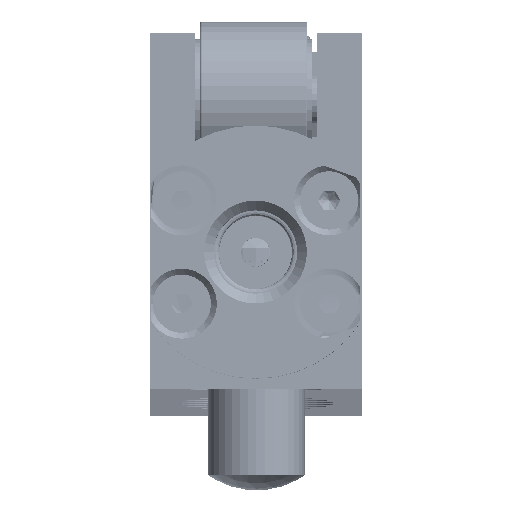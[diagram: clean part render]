
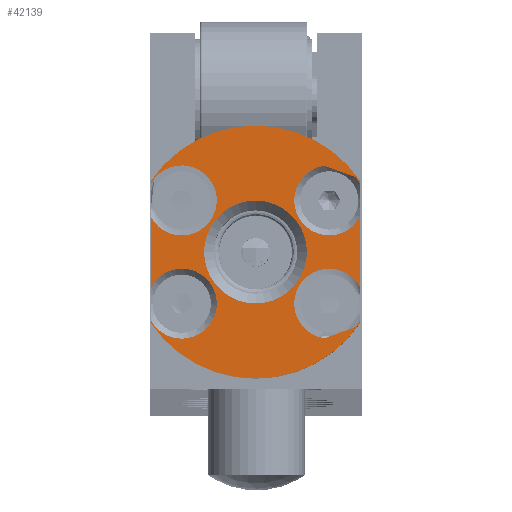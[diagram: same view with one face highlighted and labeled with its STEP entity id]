
A CAD part, top view. The second image highlights one B-rep face of the part: STEP entity #42139.
In plain terms, the highlighted planar face has unit normal (0, 0, 1).
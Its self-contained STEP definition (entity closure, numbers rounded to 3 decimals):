
#1530=FACE_BOUND('',#6582,.T.);
#1901=PLANE('',#46135);
#4018=FACE_OUTER_BOUND('',#6581,.T.);
#6581=EDGE_LOOP('',(#31925,#31926,#31927,#31928,#31929,#31930,#31931,#31932,
#31933,#31934,#31935,#31936,#31937,#31938,#31939,#31940));
#6582=EDGE_LOOP('',(#31941));
#8816=LINE('',#75810,#10376);
#8817=LINE('',#75813,#10377);
#8818=LINE('',#75817,#10378);
#8819=LINE('',#75821,#10379);
#8820=LINE('',#75825,#10380);
#8821=LINE('',#75829,#10381);
#8822=LINE('',#75833,#10382);
#8823=LINE('',#75836,#10383);
#10376=VECTOR('',#56048,10.);
#10377=VECTOR('',#56051,10.);
#10378=VECTOR('',#56054,10.);
#10379=VECTOR('',#56057,10.);
#10380=VECTOR('',#56060,10.);
#10381=VECTOR('',#56063,10.);
#10382=VECTOR('',#56066,10.);
#10383=VECTOR('',#56069,10.);
#12531=CIRCLE('',#46128,3.6);
#12534=CIRCLE('',#46131,3.6);
#12536=CIRCLE('',#46136,3.6);
#12537=CIRCLE('',#46137,3.6);
#12538=CIRCLE('',#46138,13.);
#12539=CIRCLE('',#46139,3.6);
#12540=CIRCLE('',#46140,3.6);
#12541=CIRCLE('',#46141,13.);
#12542=CIRCLE('',#46142,5.283);
#17184=VERTEX_POINT('',#75784);
#17185=VERTEX_POINT('',#75785);
#17186=VERTEX_POINT('',#75789);
#17190=VERTEX_POINT('',#75800);
#17192=VERTEX_POINT('',#75812);
#17193=VERTEX_POINT('',#75814);
#17194=VERTEX_POINT('',#75816);
#17195=VERTEX_POINT('',#75818);
#17196=VERTEX_POINT('',#75820);
#17197=VERTEX_POINT('',#75822);
#17198=VERTEX_POINT('',#75824);
#17199=VERTEX_POINT('',#75826);
#17200=VERTEX_POINT('',#75828);
#17201=VERTEX_POINT('',#75830);
#17202=VERTEX_POINT('',#75832);
#17203=VERTEX_POINT('',#75834);
#17204=VERTEX_POINT('',#75837);
#22589=EDGE_CURVE('',#17186,#17184,#12531,.T.);
#22595=EDGE_CURVE('',#17185,#17190,#12534,.T.);
#22598=EDGE_CURVE('',#17190,#17186,#8816,.T.);
#22599=EDGE_CURVE('',#17184,#17192,#8817,.T.);
#22600=EDGE_CURVE('',#17192,#17193,#12536,.T.);
#22601=EDGE_CURVE('',#17193,#17194,#8818,.T.);
#22602=EDGE_CURVE('',#17194,#17195,#12537,.T.);
#22603=EDGE_CURVE('',#17195,#17196,#8819,.T.);
#22604=EDGE_CURVE('',#17197,#17196,#12538,.T.);
#22605=EDGE_CURVE('',#17197,#17198,#8820,.T.);
#22606=EDGE_CURVE('',#17198,#17199,#12539,.T.);
#22607=EDGE_CURVE('',#17199,#17200,#8821,.T.);
#22608=EDGE_CURVE('',#17200,#17201,#12540,.T.);
#22609=EDGE_CURVE('',#17201,#17202,#8822,.T.);
#22610=EDGE_CURVE('',#17203,#17202,#12541,.T.);
#22611=EDGE_CURVE('',#17203,#17185,#8823,.T.);
#22612=EDGE_CURVE('',#17204,#17204,#12542,.T.);
#31925=ORIENTED_EDGE('',*,*,#22595,.T.);
#31926=ORIENTED_EDGE('',*,*,#22598,.T.);
#31927=ORIENTED_EDGE('',*,*,#22589,.T.);
#31928=ORIENTED_EDGE('',*,*,#22599,.T.);
#31929=ORIENTED_EDGE('',*,*,#22600,.T.);
#31930=ORIENTED_EDGE('',*,*,#22601,.T.);
#31931=ORIENTED_EDGE('',*,*,#22602,.T.);
#31932=ORIENTED_EDGE('',*,*,#22603,.T.);
#31933=ORIENTED_EDGE('',*,*,#22604,.F.);
#31934=ORIENTED_EDGE('',*,*,#22605,.T.);
#31935=ORIENTED_EDGE('',*,*,#22606,.T.);
#31936=ORIENTED_EDGE('',*,*,#22607,.T.);
#31937=ORIENTED_EDGE('',*,*,#22608,.T.);
#31938=ORIENTED_EDGE('',*,*,#22609,.T.);
#31939=ORIENTED_EDGE('',*,*,#22610,.F.);
#31940=ORIENTED_EDGE('',*,*,#22611,.T.);
#31941=ORIENTED_EDGE('',*,*,#22612,.F.);
#42139=ADVANCED_FACE('',(#4018,#1530),#1901,.T.);
#46128=AXIS2_PLACEMENT_3D('',#75790,#56032,#56033);
#46131=AXIS2_PLACEMENT_3D('',#75804,#56039,#56040);
#46135=AXIS2_PLACEMENT_3D('',#75811,#56049,#56050);
#46136=AXIS2_PLACEMENT_3D('',#75815,#56052,#56053);
#46137=AXIS2_PLACEMENT_3D('',#75819,#56055,#56056);
#46138=AXIS2_PLACEMENT_3D('',#75823,#56058,#56059);
#46139=AXIS2_PLACEMENT_3D('',#75827,#56061,#56062);
#46140=AXIS2_PLACEMENT_3D('',#75831,#56064,#56065);
#46141=AXIS2_PLACEMENT_3D('',#75835,#56067,#56068);
#46142=AXIS2_PLACEMENT_3D('',#75838,#56070,#56071);
#56032=DIRECTION('center_axis',(0.,0.,-1.));
#56033=DIRECTION('ref_axis',(-0.342,0.94,0.));
#56039=DIRECTION('center_axis',(0.,0.,-1.));
#56040=DIRECTION('ref_axis',(-0.342,0.94,0.));
#56048=DIRECTION('',(-0.94,-0.342,0.));
#56049=DIRECTION('center_axis',(0.,0.,1.));
#56050=DIRECTION('ref_axis',(1.,0.,0.));
#56051=DIRECTION('',(0.,1.,0.));
#56052=DIRECTION('center_axis',(0.,0.,-1.));
#56053=DIRECTION('ref_axis',(-0.342,-0.94,0.));
#56054=DIRECTION('',(0.94,-0.342,0.));
#56055=DIRECTION('center_axis',(0.,0.,-1.));
#56056=DIRECTION('ref_axis',(-0.342,-0.94,0.));
#56057=DIRECTION('',(0.,1.,0.));
#56058=DIRECTION('center_axis',(0.,0.,-1.));
#56059=DIRECTION('ref_axis',(0.,1.,0.));
#56060=DIRECTION('',(0.,-1.,0.));
#56061=DIRECTION('center_axis',(0.,0.,-1.));
#56062=DIRECTION('ref_axis',(1.,0.,0.));
#56063=DIRECTION('',(0.,-1.,0.));
#56064=DIRECTION('center_axis',(0.,0.,-1.));
#56065=DIRECTION('ref_axis',(1.,0.,0.));
#56066=DIRECTION('',(0.,-1.,0.));
#56067=DIRECTION('center_axis',(0.,0.,-1.));
#56068=DIRECTION('ref_axis',(0.,1.,0.));
#56069=DIRECTION('',(0.,1.,0.));
#56070=DIRECTION('center_axis',(0.,0.,1.));
#56071=DIRECTION('ref_axis',(-1.,0.,0.));
#75784=CARTESIAN_POINT('',(10.7,-7.855,1236.));
#75785=CARTESIAN_POINT('',(10.7,-11.256,1236.));
#75789=CARTESIAN_POINT('',(7.014,-13.119,1236.));
#75790=CARTESIAN_POINT('Origin',(7.527,-9.556,1236.));
#75800=CARTESIAN_POINT('',(10.211,-11.955,1236.));
#75804=CARTESIAN_POINT('Origin',(7.527,-9.556,1236.));
#75810=CARTESIAN_POINT('',(8.106,-12.721,1236.));
#75811=CARTESIAN_POINT('Origin',(-0.05,2.25,1236.));
#75812=CARTESIAN_POINT('',(10.7,-0.645,1236.));
#75813=CARTESIAN_POINT('',(10.7,-4.655,1236.));
#75814=CARTESIAN_POINT('',(7.014,4.619,1236.));
#75815=CARTESIAN_POINT('Origin',(7.527,1.056,1236.));
#75816=CARTESIAN_POINT('',(10.211,3.455,1236.));
#75817=CARTESIAN_POINT('',(6.017,4.982,1236.));
#75818=CARTESIAN_POINT('',(10.7,2.756,1236.));
#75819=CARTESIAN_POINT('Origin',(7.527,1.056,1236.));
#75820=CARTESIAN_POINT('',(10.7,3.06,1236.));
#75821=CARTESIAN_POINT('',(10.7,-4.655,1236.));
#75822=CARTESIAN_POINT('',(-10.8,3.06,1236.));
#75823=CARTESIAN_POINT('Origin',(-0.05,-4.25,1236.));
#75824=CARTESIAN_POINT('',(-10.8,2.756,1236.));
#75825=CARTESIAN_POINT('',(-10.8,2.655,1236.));
#75826=CARTESIAN_POINT('',(-10.8,-0.645,1236.));
#75827=CARTESIAN_POINT('Origin',(-7.627,1.056,1236.));
#75828=CARTESIAN_POINT('',(-10.8,-7.855,1236.));
#75829=CARTESIAN_POINT('',(-10.8,2.655,1236.));
#75830=CARTESIAN_POINT('',(-10.8,-11.256,1236.));
#75831=CARTESIAN_POINT('Origin',(-7.627,-9.556,1236.));
#75832=CARTESIAN_POINT('',(-10.8,-11.56,1236.));
#75833=CARTESIAN_POINT('',(-10.8,2.655,1236.));
#75834=CARTESIAN_POINT('',(10.7,-11.56,1236.));
#75835=CARTESIAN_POINT('Origin',(-0.05,-4.25,1236.));
#75836=CARTESIAN_POINT('',(10.7,-4.655,1236.));
#75837=CARTESIAN_POINT('',(5.233,-4.25,1236.));
#75838=CARTESIAN_POINT('Origin',(-0.05,-4.25,1236.));
